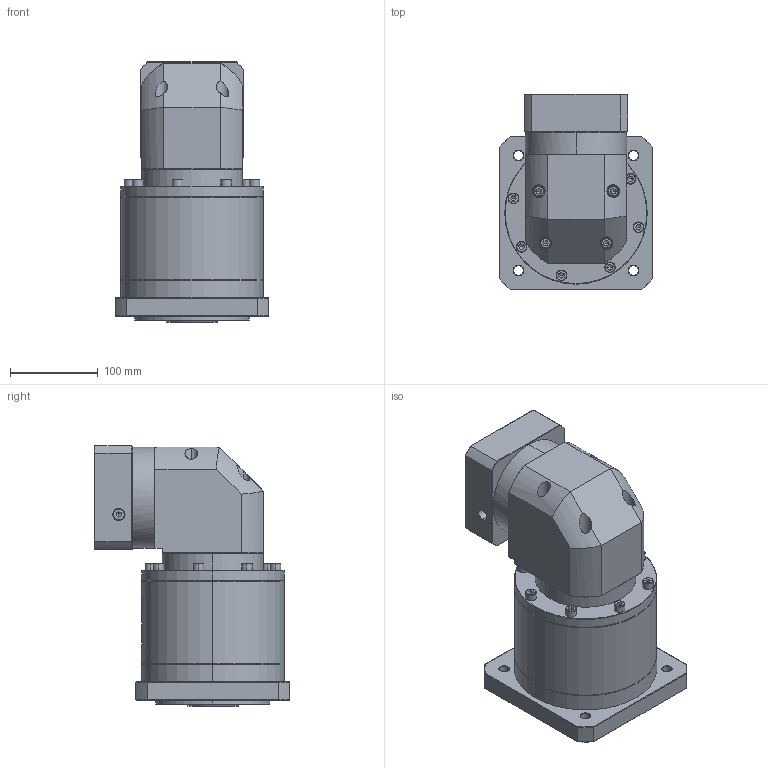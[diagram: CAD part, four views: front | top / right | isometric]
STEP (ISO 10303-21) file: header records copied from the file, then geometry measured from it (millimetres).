
FILE_DESCRIPTION (( 'STEP AP214' ), '1' );
FILE_NAME ('ZFR160A-K35-L3-P2-19-95-115-M8.step', '2023-09-03T09:45:16', ( '' ), ( '' ), 'SwSTEP 2.0', 'SolidWorks 2016', '' );
FILE_SCHEMA (( 'AUTOMOTIVE_DESIGN' ));
Length unit declared in the file: millimetre
Products named in the file (1): ZFR160A-K35-L3-P2-19-95-115-M8
Bounding box: 175 x 222.4 x 296.2 mm (x, y, z)
Volume: 5488564.2 mm3; surface area: 353351.9 mm2
Topology: 6 solids, 6 shells, 2412 faces, 6327 edges, 4041 vertices
Faces by surface type: plane 1139, cylinder 462, bspline 403, cone 364, torus 44
Entity records: 126433 total; most frequent: CARTESIAN_POINT 45585, ORIENTED_EDGE 12550, DIRECTION 9570, EDGE_CURVE 6275, VERTEX_POINT 4041, LINE 3382, VECTOR 3382, AXIS2_PLACEMENT_3D 3094
